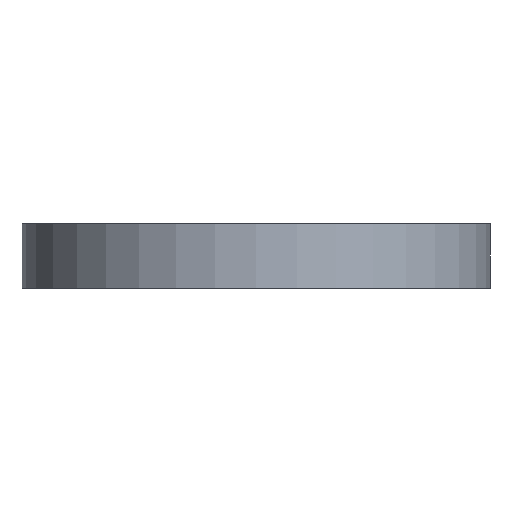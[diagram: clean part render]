
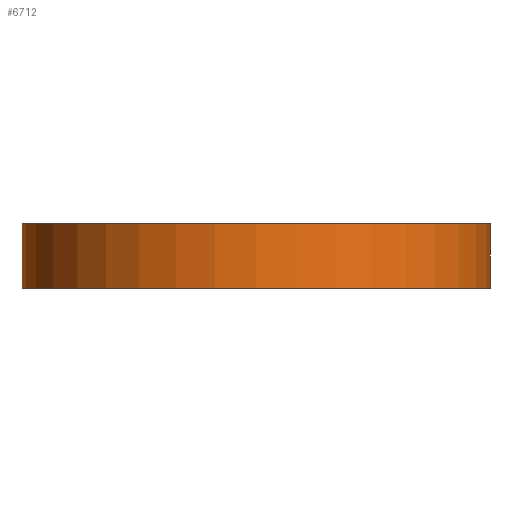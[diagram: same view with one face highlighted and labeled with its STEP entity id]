
A CAD part, front view. The second image highlights one B-rep face of the part: STEP entity #6712.
In plain terms, the highlighted cylindrical face has radius 32.76 mm (diameter 65.52 mm), a partial arc.
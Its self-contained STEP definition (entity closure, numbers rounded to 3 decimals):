
#426 = CARTESIAN_POINT ( 'NONE',  ( 0., -96., 0. ) ) ;
#868 = CARTESIAN_POINT ( 'NONE',  ( 32.76, -96., 0. ) ) ;
#1590 = CIRCLE ( 'NONE', #20609, 32.76 ) ;
#1979 = DIRECTION ( 'NONE',  ( -1., 0., 0. ) ) ;
#2047 = VERTEX_POINT ( 'NONE', #16983 ) ;
#2881 = VERTEX_POINT ( 'NONE', #868 ) ;
#5321 = ORIENTED_EDGE ( 'NONE', *, *, #12942, .T. ) ;
#5884 = CYLINDRICAL_SURFACE ( 'NONE', #10319, 32.76 ) ;
#6300 = VERTEX_POINT ( 'NONE', #7397 ) ;
#6712 = ADVANCED_FACE ( 'NONE', ( #10941 ), #5884, .T. ) ;
#6879 = LINE ( 'NONE', #20171, #18463 ) ;
#6911 = VERTEX_POINT ( 'NONE', #18872 ) ;
#7023 = DIRECTION ( 'NONE',  ( 0., 0., 1. ) ) ;
#7397 = CARTESIAN_POINT ( 'NONE',  ( -32.76, -96., 0. ) ) ;
#7692 = LINE ( 'NONE', #17139, #15262 ) ;
#10319 = AXIS2_PLACEMENT_3D ( 'NONE', #13369, #18329, #1979 ) ;
#10941 = FACE_OUTER_BOUND ( 'NONE', #13651, .T. ) ;
#11442 = EDGE_CURVE ( 'NONE', #2047, #2881, #7692, .T. ) ;
#11921 = DIRECTION ( 'NONE',  ( 0., 0., -1. ) ) ;
#12021 = EDGE_CURVE ( 'NONE', #6911, #2047, #1590, .T. ) ;
#12663 = ORIENTED_EDGE ( 'NONE', *, *, #12021, .F. ) ;
#12942 = EDGE_CURVE ( 'NONE', #6911, #6300, #6879, .T. ) ;
#13369 = CARTESIAN_POINT ( 'NONE',  ( 0., -96., 9. ) ) ;
#13381 = CIRCLE ( 'NONE', #17162, 32.76 ) ;
#13518 = DIRECTION ( 'NONE',  ( 1., 0., 0. ) ) ;
#13651 = EDGE_LOOP ( 'NONE', ( #12663, #5321, #14610, #19582 ) ) ;
#14036 = DIRECTION ( 'NONE',  ( 0., 0., 1. ) ) ;
#14610 = ORIENTED_EDGE ( 'NONE', *, *, #14717, .T. ) ;
#14717 = EDGE_CURVE ( 'NONE', #6300, #2881, #13381, .T. ) ;
#15262 = VECTOR ( 'NONE', #15592, 1000. ) ;
#15592 = DIRECTION ( 'NONE',  ( 0., 0., -1. ) ) ;
#16983 = CARTESIAN_POINT ( 'NONE',  ( 32.76, -96., 9. ) ) ;
#17139 = CARTESIAN_POINT ( 'NONE',  ( 32.76, -96., 9. ) ) ;
#17162 = AXIS2_PLACEMENT_3D ( 'NONE', #426, #7023, #13518 ) ;
#17380 = CARTESIAN_POINT ( 'NONE',  ( 0., -96., 9. ) ) ;
#17515 = DIRECTION ( 'NONE',  ( 1., 0., 0. ) ) ;
#18329 = DIRECTION ( 'NONE',  ( 0., 0., -1. ) ) ;
#18463 = VECTOR ( 'NONE', #11921, 1000. ) ;
#18872 = CARTESIAN_POINT ( 'NONE',  ( -32.76, -96., 9. ) ) ;
#19582 = ORIENTED_EDGE ( 'NONE', *, *, #11442, .F. ) ;
#20171 = CARTESIAN_POINT ( 'NONE',  ( -32.76, -96., 9. ) ) ;
#20609 = AXIS2_PLACEMENT_3D ( 'NONE', #17380, #14036, #17515 ) ;
